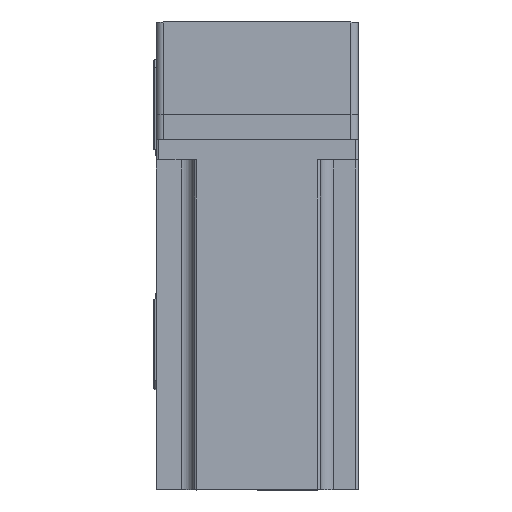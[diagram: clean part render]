
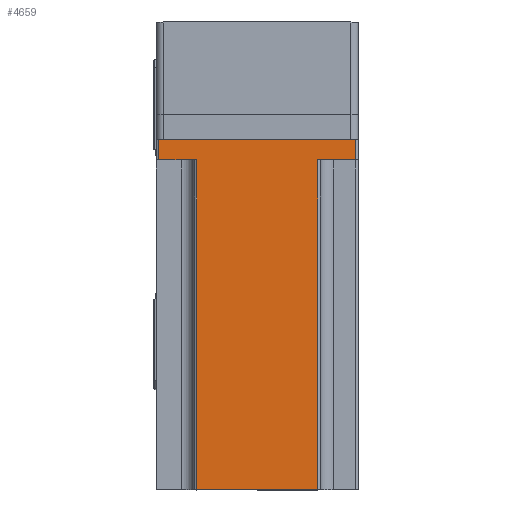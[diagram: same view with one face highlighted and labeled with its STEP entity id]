
A CAD part, top view. The second image highlights one B-rep face of the part: STEP entity #4659.
In plain terms, the highlighted planar face has unit normal (0, 0, 1) as drawn and (0, 1, 0) by its records, which use the part's own axes.
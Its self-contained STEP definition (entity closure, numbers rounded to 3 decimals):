
#1354 = VERTEX_POINT ( 'NONE', #26196 ) ;
#1645 = LINE ( 'NONE', #4155, #25771 ) ;
#2022 = DIRECTION ( 'NONE',  ( 0., 0., -1. ) ) ;
#3027 = CARTESIAN_POINT ( 'NONE',  ( 39., 40., 8. ) ) ;
#3330 = CARTESIAN_POINT ( 'NONE',  ( 24., 40., 138.3 ) ) ;
#3383 = ORIENTED_EDGE ( 'NONE', *, *, #20205, .T. ) ;
#3733 = VECTOR ( 'NONE', #15831, 1000. ) ;
#4155 = CARTESIAN_POINT ( 'NONE',  ( 40., 40., 138.3 ) ) ;
#4659 = ADVANCED_FACE ( 'NONE', ( #41556 ), #18324, .F. ) ;
#4733 = VERTEX_POINT ( 'NONE', #3027 ) ;
#4968 = VERTEX_POINT ( 'NONE', #7428 ) ;
#5713 = EDGE_CURVE ( 'NONE', #8305, #37441, #1645, .T. ) ;
#7428 = CARTESIAN_POINT ( 'NONE',  ( -39., 40., 8. ) ) ;
#7592 = ORIENTED_EDGE ( 'NONE', *, *, #12660, .T. ) ;
#8305 = VERTEX_POINT ( 'NONE', #3330 ) ;
#8390 = CARTESIAN_POINT ( 'NONE',  ( -24., 40., 8. ) ) ;
#8707 = VERTEX_POINT ( 'NONE', #38827 ) ;
#10308 = LINE ( 'NONE', #23768, #17947 ) ;
#12660 = EDGE_CURVE ( 'NONE', #4733, #8707, #29047, .T. ) ;
#13522 = EDGE_CURVE ( 'NONE', #4968, #19219, #10308, .T. ) ;
#15831 = DIRECTION ( 'NONE',  ( 0., 0., 1. ) ) ;
#15903 = CARTESIAN_POINT ( 'NONE',  ( 40., 40., 138.3 ) ) ;
#16281 = VECTOR ( 'NONE', #35335, 1000. ) ;
#17096 = EDGE_CURVE ( 'NONE', #1354, #4968, #38752, .T. ) ;
#17301 = LINE ( 'NONE', #41829, #16281 ) ;
#17947 = VECTOR ( 'NONE', #20586, 1000. ) ;
#17962 = EDGE_CURVE ( 'NONE', #19219, #37441, #18697, .T. ) ;
#18324 = PLANE ( 'NONE',  #23093 ) ;
#18533 = DIRECTION ( 'NONE',  ( -1., 0., 0. ) ) ;
#18697 = LINE ( 'NONE', #40399, #35235 ) ;
#19105 = ORIENTED_EDGE ( 'NONE', *, *, #5713, .F. ) ;
#19194 = DIRECTION ( 'NONE',  ( 1., 0., 0. ) ) ;
#19219 = VERTEX_POINT ( 'NONE', #8390 ) ;
#19241 = VECTOR ( 'NONE', #2022, 1000. ) ;
#19420 = ORIENTED_EDGE ( 'NONE', *, *, #29134, .F. ) ;
#20205 = EDGE_CURVE ( 'NONE', #8305, #31521, #38605, .T. ) ;
#20586 = DIRECTION ( 'NONE',  ( 1., 0., 0. ) ) ;
#21422 = ORIENTED_EDGE ( 'NONE', *, *, #13522, .T. ) ;
#23093 = AXIS2_PLACEMENT_3D ( 'NONE', #15903, #39010, #19194 ) ;
#23768 = CARTESIAN_POINT ( 'NONE',  ( -25., 40., 8. ) ) ;
#23790 = DIRECTION ( 'NONE',  ( -1., 0., 0. ) ) ;
#23809 = DIRECTION ( 'NONE',  ( 0., 0., 1. ) ) ;
#23949 = DIRECTION ( 'NONE',  ( 0., 0., -1. ) ) ;
#24677 = CARTESIAN_POINT ( 'NONE',  ( -24., 40., 138.3 ) ) ;
#25167 = CARTESIAN_POINT ( 'NONE',  ( 25., 40., 8. ) ) ;
#25771 = VECTOR ( 'NONE', #23790, 1000. ) ;
#26196 = CARTESIAN_POINT ( 'NONE',  ( -39., 40., 0. ) ) ;
#26404 = VECTOR ( 'NONE', #18533, 1000. ) ;
#28449 = CARTESIAN_POINT ( 'NONE',  ( 24., 40., 8. ) ) ;
#29047 = LINE ( 'NONE', #31481, #19241 ) ;
#29134 = EDGE_CURVE ( 'NONE', #4733, #31521, #35232, .T. ) ;
#29537 = ORIENTED_EDGE ( 'NONE', *, *, #17962, .T. ) ;
#31230 = EDGE_LOOP ( 'NONE', ( #21422, #29537, #19105, #3383, #19420, #7592, #38670, #41395 ) ) ;
#31481 = CARTESIAN_POINT ( 'NONE',  ( 39., 40., 138.3 ) ) ;
#31521 = VERTEX_POINT ( 'NONE', #28449 ) ;
#32635 = EDGE_CURVE ( 'NONE', #8707, #1354, #17301, .T. ) ;
#32911 = VECTOR ( 'NONE', #23949, 1000. ) ;
#33768 = CARTESIAN_POINT ( 'NONE',  ( 24., 40., 138.3 ) ) ;
#35232 = LINE ( 'NONE', #25167, #26404 ) ;
#35235 = VECTOR ( 'NONE', #23809, 1000. ) ;
#35335 = DIRECTION ( 'NONE',  ( -1., 0., 0. ) ) ;
#35618 = CARTESIAN_POINT ( 'NONE',  ( -39., 40., 138.3 ) ) ;
#37441 = VERTEX_POINT ( 'NONE', #24677 ) ;
#38605 = LINE ( 'NONE', #33768, #32911 ) ;
#38670 = ORIENTED_EDGE ( 'NONE', *, *, #32635, .T. ) ;
#38752 = LINE ( 'NONE', #35618, #3733 ) ;
#38827 = CARTESIAN_POINT ( 'NONE',  ( 39., 40., 0. ) ) ;
#39010 = DIRECTION ( 'NONE',  ( 0., -1., 0. ) ) ;
#40399 = CARTESIAN_POINT ( 'NONE',  ( -24., 40., 138.3 ) ) ;
#41395 = ORIENTED_EDGE ( 'NONE', *, *, #17096, .T. ) ;
#41556 = FACE_OUTER_BOUND ( 'NONE', #31230, .T. ) ;
#41829 = CARTESIAN_POINT ( 'NONE',  ( 40., 40., 0. ) ) ;
